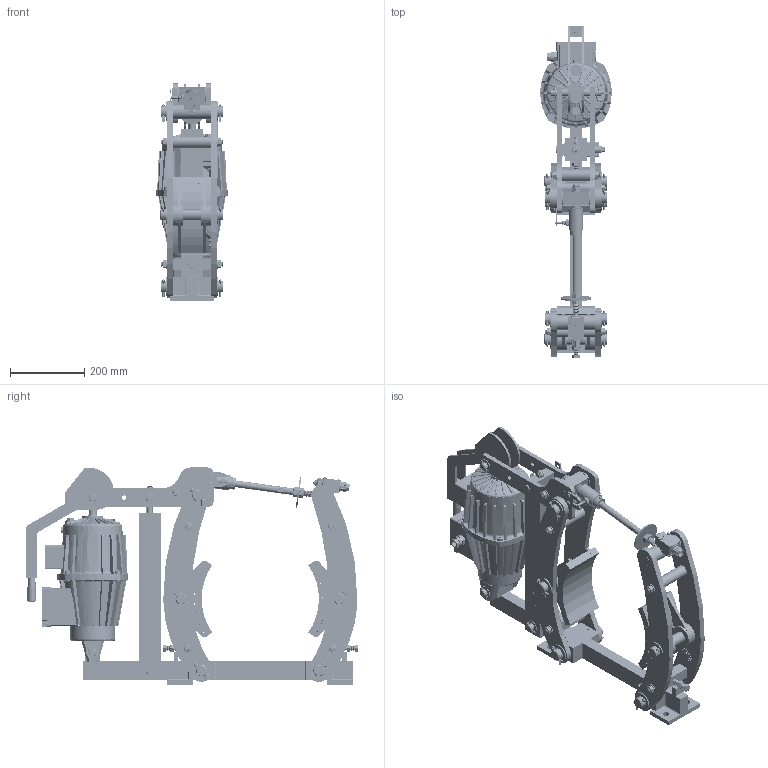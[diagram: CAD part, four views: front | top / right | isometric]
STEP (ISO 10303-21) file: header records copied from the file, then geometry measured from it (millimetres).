
FILE_DESCRIPTION((''),'2;1');
FILE_NAME('4459_314_553_E00001','2018-01-30T',('VORO'),(''),'CREO PARAMETRIC BY PTC INC, 2017170','CREO PARAMETRIC BY PTC INC, 2017170','');
FILE_SCHEMA(('CONFIG_CONTROL_DESIGN'));
Products named in the file (1): 4459_314_553_E00001
Bounding box: 192 x 891.28 x 583 mm (x, y, z)
Surface area: 2309300.2 mm2 (no closed solid volume)
Topology: 0 solids, 3526 shells, 4246 faces, 26379 edges, 24878 vertices
Faces by surface type: plane 1713, cylinder 1388, cone 910, torus 213, bspline 18, sphere 4
Entity records: 448159 total; most frequent: CARTESIAN_POINT 139389, PRESENTATION_STYLE_ASSIGNMENT 34107, STYLED_ITEM 29869, DIRECTION 29337, ORIENTED_EDGE 27837, CURVE_STYLE 26351, EDGE_CURVE 26351, VERTEX_POINT 24874
